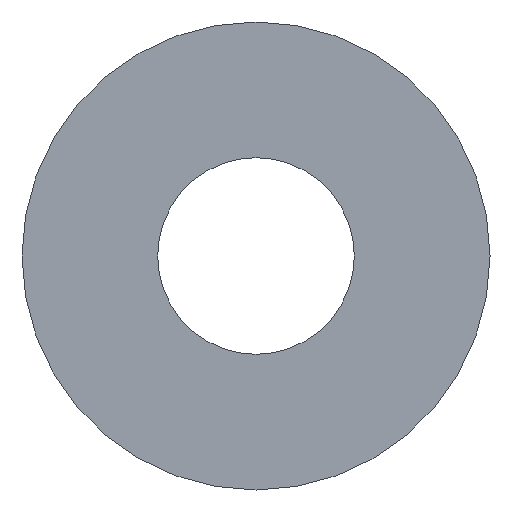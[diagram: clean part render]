
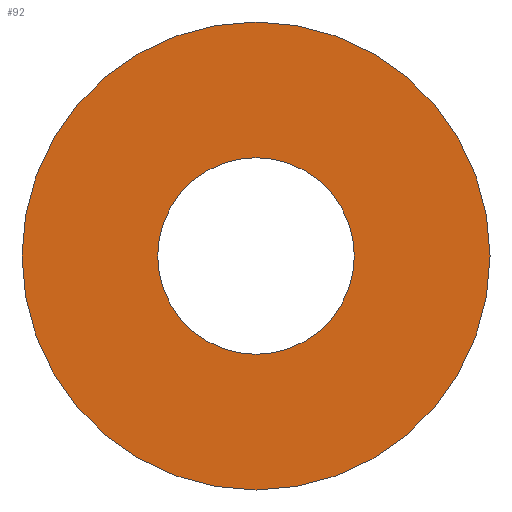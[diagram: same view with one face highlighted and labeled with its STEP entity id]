
A CAD part, front view. The second image highlights one B-rep face of the part: STEP entity #92.
In plain terms, the highlighted planar face has unit normal (0, -1, 0).
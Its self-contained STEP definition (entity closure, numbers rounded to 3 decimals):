
#2 = PLANE ( 'NONE',  #136 ) ;
#17 = ORIENTED_EDGE ( 'NONE', *, *, #233, .T. ) ;
#35 = EDGE_CURVE ( 'NONE', #327, #65, #128, .T. ) ;
#38 = CIRCLE ( 'NONE', #390, 38.1 ) ;
#47 = ORIENTED_EDGE ( 'NONE', *, *, #266, .T. ) ;
#51 = DIRECTION ( 'NONE',  ( 0., 1., 0. ) ) ;
#65 = VERTEX_POINT ( 'NONE', #200 ) ;
#80 = DIRECTION ( 'NONE',  ( 0., 1., 0. ) ) ;
#83 = EDGE_LOOP ( 'NONE', ( #229, #263 ) ) ;
#85 = AXIS2_PLACEMENT_3D ( 'NONE', #119, #51, #301 ) ;
#86 = DIRECTION ( 'NONE',  ( 0., 0., 1. ) ) ;
#87 = AXIS2_PLACEMENT_3D ( 'NONE', #257, #293, #255 ) ;
#92 = ADVANCED_FACE ( 'NONE', ( #246, #204 ), #2, .F. ) ;
#119 = CARTESIAN_POINT ( 'NONE',  ( 0., -29., 0. ) ) ;
#128 = CIRCLE ( 'NONE', #87, 38.1 ) ;
#136 = AXIS2_PLACEMENT_3D ( 'NONE', #366, #80, #414 ) ;
#153 = CARTESIAN_POINT ( 'NONE',  ( 0., -29., 38.1 ) ) ;
#161 = CARTESIAN_POINT ( 'NONE',  ( 0., -29., -16. ) ) ;
#200 = CARTESIAN_POINT ( 'NONE',  ( 0., -29., -38.1 ) ) ;
#204 = FACE_OUTER_BOUND ( 'NONE', #83, .T. ) ;
#229 = ORIENTED_EDGE ( 'NONE', *, *, #35, .F. ) ;
#233 = EDGE_CURVE ( 'NONE', #386, #361, #364, .T. ) ;
#246 = FACE_BOUND ( 'NONE', #272, .T. ) ;
#255 = DIRECTION ( 'NONE',  ( 0., 0., 1. ) ) ;
#257 = CARTESIAN_POINT ( 'NONE',  ( 0., -29., 0. ) ) ;
#261 = AXIS2_PLACEMENT_3D ( 'NONE', #273, #421, #86 ) ;
#263 = ORIENTED_EDGE ( 'NONE', *, *, #279, .F. ) ;
#266 = EDGE_CURVE ( 'NONE', #361, #386, #285, .T. ) ;
#268 = DIRECTION ( 'NONE',  ( 0., 1., 0. ) ) ;
#272 = EDGE_LOOP ( 'NONE', ( #47, #17 ) ) ;
#273 = CARTESIAN_POINT ( 'NONE',  ( 0., -29., 0. ) ) ;
#279 = EDGE_CURVE ( 'NONE', #65, #327, #38, .T. ) ;
#285 = CIRCLE ( 'NONE', #261, 16. ) ;
#293 = DIRECTION ( 'NONE',  ( 0., 1., 0. ) ) ;
#301 = DIRECTION ( 'NONE',  ( 0., 0., 1. ) ) ;
#313 = CARTESIAN_POINT ( 'NONE',  ( 0., -29., 16. ) ) ;
#327 = VERTEX_POINT ( 'NONE', #153 ) ;
#348 = DIRECTION ( 'NONE',  ( 0., 0., 1. ) ) ;
#361 = VERTEX_POINT ( 'NONE', #313 ) ;
#364 = CIRCLE ( 'NONE', #85, 16. ) ;
#366 = CARTESIAN_POINT ( 'NONE',  ( 0., -29., 0. ) ) ;
#386 = VERTEX_POINT ( 'NONE', #161 ) ;
#390 = AXIS2_PLACEMENT_3D ( 'NONE', #415, #268, #348 ) ;
#414 = DIRECTION ( 'NONE',  ( 0., 0., 1. ) ) ;
#415 = CARTESIAN_POINT ( 'NONE',  ( 0., -29., 0. ) ) ;
#421 = DIRECTION ( 'NONE',  ( 0., 1., 0. ) ) ;
